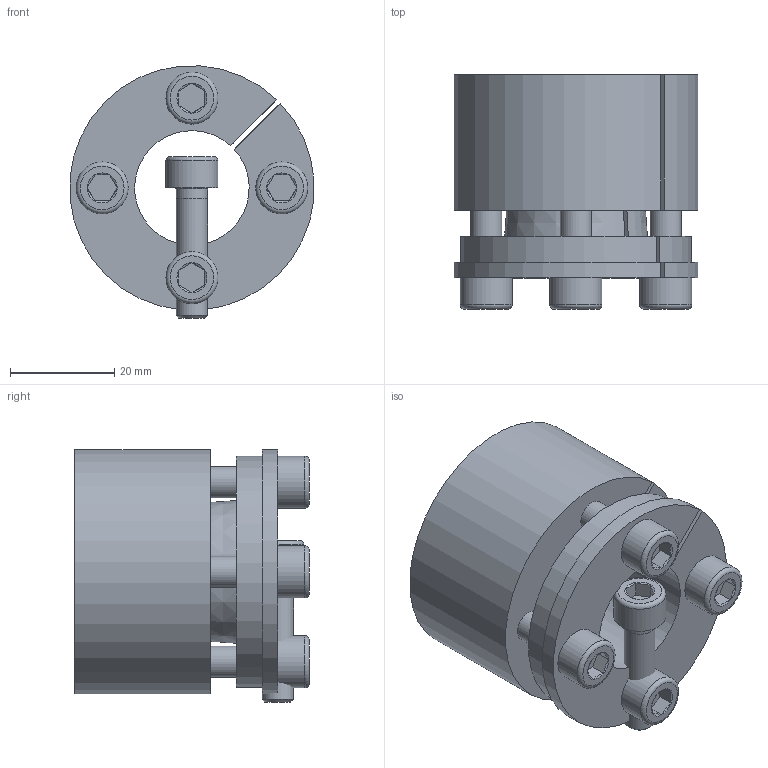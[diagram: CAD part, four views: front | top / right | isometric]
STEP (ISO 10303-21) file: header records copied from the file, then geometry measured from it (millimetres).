
FILE_DESCRIPTION( ( 'Unknown' ), '1' );
FILE_NAME( 'C:/Dokumente und Einstellungen/Sven/Desktop/homepage/cad - homepage/KBS70/KBS 70 - 22 x 47.stp', 'Unknown', ( 'Unknown' ), ( 'Unknown' ), 'XStep 1.0', 'Unknown', ' ' );
FILE_SCHEMA( ( 'automotive_design' ) );
Length unit declared in the file: millimetre
Products named in the file (3): Assem1; KBS 70 - 22 x 47; ISO EN DIN 4762 M6x25
Bounding box: 46.86 x 45 x 48.44 mm (x, y, z)
Volume: 89087.4 mm3; surface area: 36347.7 mm2
Topology: 7 solids, 7 shells, 169 faces, 347 edges, 212 vertices
Faces by surface type: plane 76, cylinder 44, cone 39, torus 10
Full cylindrical faces by diameter (mm): 5 x5, 6 x26, 10 x5
Entity records: 1522 total; most frequent: CARTESIAN_POINT 261, DIRECTION 228, ORIENTED_EDGE 174, AXIS2_PLACEMENT_3D 98, EDGE_CURVE 87, EDGE_LOOP 82, VERTEX_POINT 63, FACE_OUTER_BOUND 61
